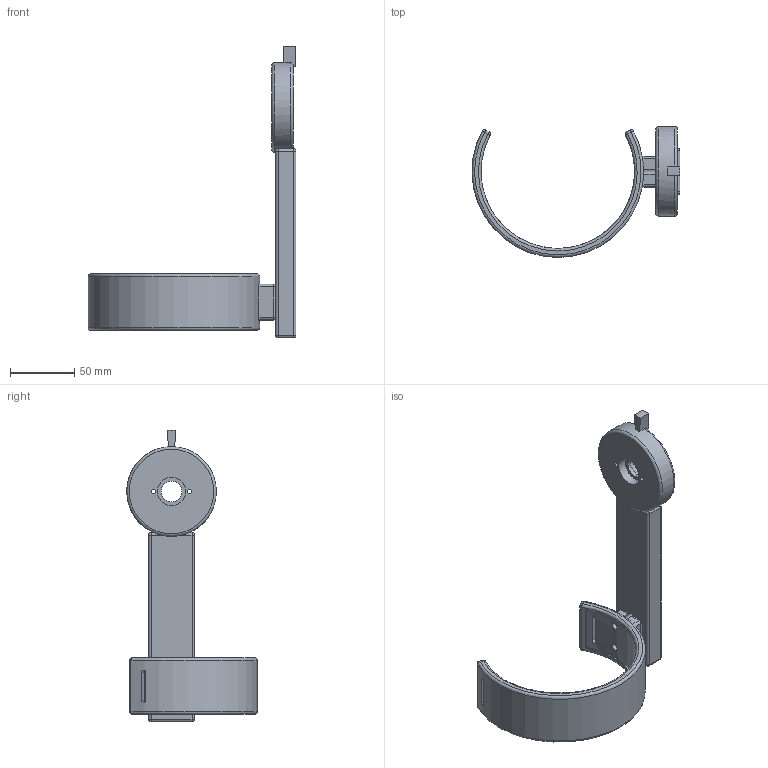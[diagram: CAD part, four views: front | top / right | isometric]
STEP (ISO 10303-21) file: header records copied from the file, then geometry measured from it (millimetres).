
FILE_DESCRIPTION(('Open CASCADE Model'),'2;1');
FILE_NAME('Open CASCADE Shape Model','2026-11-04T08:45:12',('Author'),( 'Open CASCADE'),'Open CASCADE STEP processor 7.8','Open CASCADE 7.8' ,'Unknown');
FILE_SCHEMA(('AUTOMOTIVE_DESIGN { 1 0 10303 214 1 1 1 1 }'));
Length unit declared in the file: millimetre
Products named in the file (1): Open CASCADE STEP translator 7.8 2
Bounding box: 162.38 x 102 x 227.99 mm (x, y, z)
Volume: 196828.9 mm3; surface area: 63487.9 mm2
Topology: 1 solids, 1 shells, 123 faces, 308 edges, 167 vertices
Faces by surface type: cylinder 55, plane 37, sphere 24, torus 7
Full cylindrical faces by diameter (mm): 3.4 x2, 5.5 x4, 16 x1, 22.025 x2, 70 x1
Entity records: 9137 total; most frequent: CARTESIAN_POINT 3472, DIRECTION 1040, ORIENTED_EDGE 568, PCURVE 568, DEFINITIONAL_REPRESENTATION 568, LINE 508, VECTOR 508, EDGE_CURVE 284
